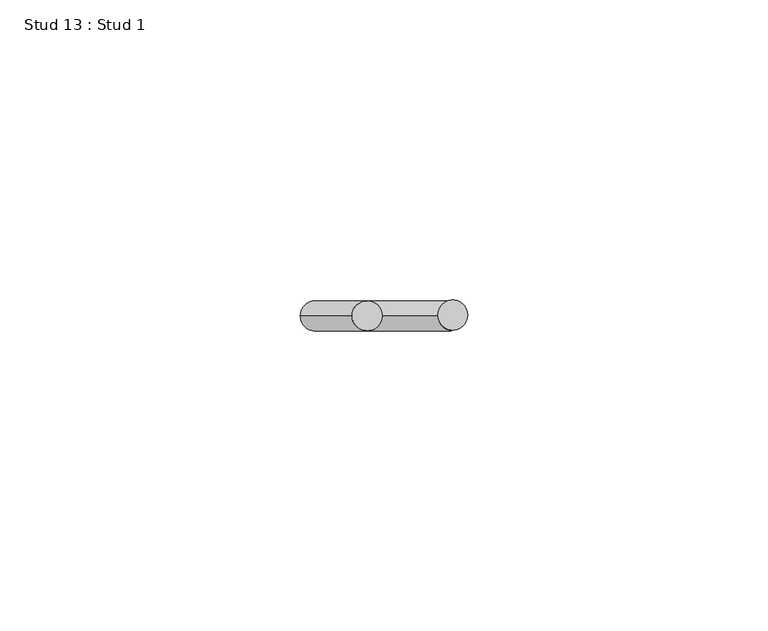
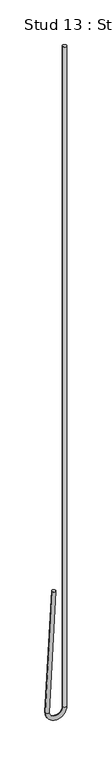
"""IFC4 building model written with IfcOpenShell, lengths in millimetres: proxy geometry, Stud 13 : Stud 1."""

from ifc_helpers import new_model, si_unit, point, frame, origin, place, context, project, spatial, circle_curve, ellipse_curve, trimmed, source, transform, mapped, element, save
from ifc_brep_helpers import plane_surface, cylinder_surface, revolved_surface, advanced_brep


def stud_13_stud_1_08e3559b(model_context):
    return source(origin(), model_context, "Body", "AdvancedBrep", [
        advanced_brep(
        [(-12209.2532788, 4624.5191481, 3640.800192), (-12204.2601311, 4624.5191481, 3640.5385122), (-12217.8939451, 4624.5191481, 3475.9264558), (-12212.9007975, 4624.5191481, 3475.664776), (-12194.9920812, 4624.5191481, 3475.7956159), (-12189.9920812, 4624.5191481, 3475.7956159), (-12189.9920812, 4624.5191481, 4390.1956159), (-12194.9920812, 4624.5191481, 4390.1956159)],
        [
            (0, 1, circle_curve(frame((-12206.7567049, 4624.5191481, 3640.6693521), z_axis=(0.05233595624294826, 0.0, 0.9986295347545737), x_axis=(0.9986295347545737, 0.0, -0.05233595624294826)), 2.5)),
            (1, 0, circle_curve(frame((-12206.7567049, 4624.5191481, 3640.6693521), z_axis=(0.05233595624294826, 0.0, 0.9986295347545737), x_axis=(0.9986295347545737, 0.0, -0.05233595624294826)), 2.5)),
            (0, 2),
            (2, 3, circle_curve(frame((-12215.3973713, 4624.5191481, 3475.7956159), z_axis=(0.05233595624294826, 0.0, 0.9986295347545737), x_axis=(0.9986295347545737, 0.0, -0.05233595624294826)), 2.5)),
            (3, 1),
            (3, 2, circle_curve(frame((-12215.3973713, 4624.5191481, 3475.7956159), z_axis=(0.05233595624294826, 0.0, 0.9986295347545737), x_axis=(0.9986295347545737, 0.0, -0.05233595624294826)), 2.5)),
            (4, 3, circle_curve(frame((-12203.9447263, 4624.5191481, 3475.7956159), z_axis=(0.0, 1.0, 0.0), x_axis=(-1.0, 0.0, 0.0)), 8.952645)),
            (2, 5, circle_curve(frame((-12203.9447263, 4624.5191481, 3475.7956159), z_axis=(0.0, -1.0, 0.0), x_axis=(-1.0, 0.0, 0.0)), 13.952645)),
            (5, 4, circle_curve(frame((-12192.4920812, 4624.5191481, 3475.7956159), z_axis=(0.0, 0.0, -1.0), x_axis=(-1.0, 0.0, 0.0)), 2.5)),
            (4, 5, circle_curve(frame((-12192.4920812, 4624.5191481, 3475.7956159), z_axis=(0.0, 0.0, -1.0), x_axis=(-1.0, 0.0, 0.0)), 2.5)),
            (6, 7, circle_curve(frame((-12192.4920812, 4624.5191481, 4390.1956159), z_axis=(0.0, 0.0, 1.0), x_axis=(-1.0, 0.0, 0.0)), 2.5)),
            (7, 6, circle_curve(frame((-12192.4920812, 4624.5191481, 4390.1956159), z_axis=(0.0, 0.0, 1.0), x_axis=(-1.0, 0.0, 0.0)), 2.5)),
            (5, 6),
            (7, 4),
        ],
        [
            plane_surface(frame((-12206.7567049, 5218.2441481, 3640.6693521), z_axis=(0.05233595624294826, 0.0, 0.9986295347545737), x_axis=(0.0, -1.0, 0.0))),
            cylinder_surface(frame((-12206.7567049, 4624.5191481, 3640.6693521), z_axis=(0.05233595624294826, 0.0, 0.9986295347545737), x_axis=(0.9986295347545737, 0.0, -0.05233595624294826)), 2.5),
            revolved_surface(trimmed(ellipse_curve(frame((-12215.3973713, 4624.5191481, 3475.7956159), z_axis=(0.0, 0.0, 1.0), x_axis=(1.0, 0.0, 0.0)), 2.5, 2.5), [point((-12217.8973713, 4624.5191481, 3475.7956159))], [point((-12212.8973713, 4624.5191481, 3475.7956159))], True, "CARTESIAN"), (-12203.9447263, 5218.2441481, 3475.7956159), (0.0, -1.0, 0.0)),
            revolved_surface(trimmed(ellipse_curve(frame((-12215.3973713, 4624.5191481, 3475.7956159), z_axis=(0.0, 0.0, 1.0), x_axis=(1.0, 0.0, 0.0)), 2.5, 2.5), [point((-12212.8973713, 4624.5191481, 3475.7956159))], [point((-12217.8973713, 4624.5191481, 3475.7956159))], True, "CARTESIAN"), (-12203.9447263, 5218.2441481, 3475.7956159), (0.0, -1.0, 0.0)),
            plane_surface(frame((-12192.4920812, 5218.2441481, 4390.1956159), z_axis=(0.0, 0.0, 1.0), x_axis=(0.0, -1.0, 0.0))),
            cylinder_surface(frame((-12192.4920812, 4624.5191481, 3475.7956159), z_axis=(0.0, 0.0, -1.0), x_axis=(-1.0, 0.0, 0.0)), 2.5),
        ],
        [
            (0, [[1, 2]]),
            (1, [[-1, 3, 4, 5]]),
            (1, [[-2, -5, 6, -3]]),
            (2, [[7, -4, 8, 9]]),
            (3, [[-8, -6, -7, 10]]),
            (4, [[11, 12]]),
            (5, [[-9, 13, -12, 14]]),
            (5, [[-10, -14, -11, -13]]),
        ],
    ),
    ])


if __name__ == "__main__":
    model = new_model("IFC4")
    model_context = context("Model", 3, world=origin())
    ifc_project = project(units=[si_unit("LENGTHUNIT", "METRE", prefix="MILLI")], contexts=[model_context])
    site = spatial("IfcSite", under=ifc_project)
    building = spatial("IfcBuilding", under=site)
    placement = place(None, origin())
    stud_13_stud_1_shape = stud_13_stud_1_08e3559b(model_context)
    element("IfcBuildingElementProxy", 1, Name="Stud 13 : Stud 1", ObjectType="Stud 13 : Stud 1", at=placement, inside=building, context=model_context, shape_type="MappedRepresentation", body=[
        mapped(stud_13_stud_1_shape, transform((0.0, 0.0, 0.0), x_axis=(1.0, 0.0, 0.0), y_axis=(0.0, 1.0, 0.0), z_axis=(0.0, 0.0, 1.0))),
    ])
    save(model, "model.ifc")
